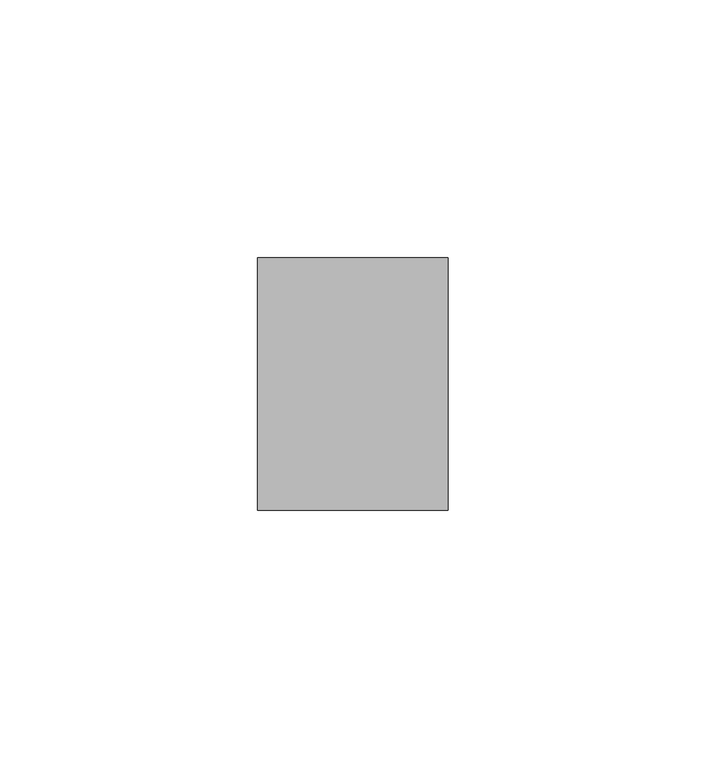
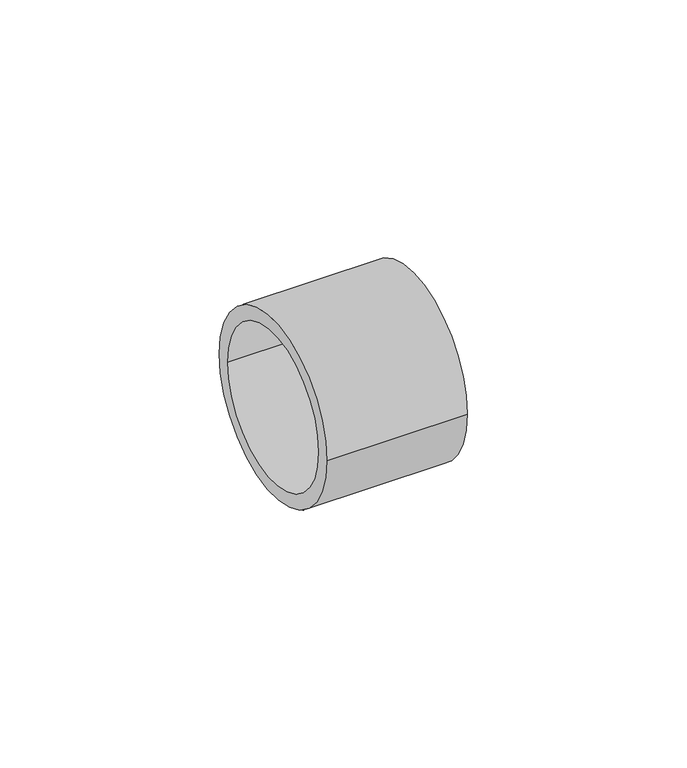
"""IFC4 building model written with IfcOpenShell, lengths in millimetres: pipe fitting geometry, RAUTITAN_Sleeve SDR 7,4 : RTI S SDR 7,4."""

import ifcopenshell
import ifcopenshell.guid

model = None  # the IFC model being written
_history = None  # IfcOwnerHistory: only IFC2X3 demands one
_inside = {}  # id of a spatial element -> (the spatial element, [elements in it])
_under = {}  # id of a project, library or spatial element -> (it, [spatial elements below it])
_declared = {}  # id of a project -> (the project, [libraries it declares])
_typed = {}  # id of a type object -> (the type object, [elements of that type])
_made_of = {}  # id of a material, layer set ... -> (it, [elements and type objects made of it])


def new_model(schema):
    """Start an empty IFC model of exactly this schema.

    Asked for "IFC4X3", IfcOpenShell would pick the latest addendum, in which some entities
    have other attributes; the version numbers below select the first issue.
    IFC2X3 requires an IfcOwnerHistory on every rooted entity: one is made here for all.
    """
    global model, _history
    if schema == "IFC4X3":
        model = ifcopenshell.file(schema_version=(4, 3, 0, 0))
    else:
        model = ifcopenshell.file(schema=schema)
    _inside.clear()
    _under.clear()
    _declared.clear()
    _typed.clear()
    _made_of.clear()
    _history = None
    if model.schema == "IFC2X3":
        org = make("IfcOrganization", Name="unknown")
        user = make(
            "IfcPersonAndOrganization",
            ThePerson=make("IfcPerson", FamilyName="unknown"),
            TheOrganization=org,
        )
        app = make(
            "IfcApplication",
            ApplicationDeveloper=org,
            Version="unknown",
            ApplicationFullName="unknown",
            ApplicationIdentifier="unknown",
        )
        _history = make(
            "IfcOwnerHistory",
            OwningUser=user,
            OwningApplication=app,
            ChangeAction="ADDED",
            CreationDate=0,
        )
    return model


def make(cls, **values):
    """One entity of the class cls with the attributes given. An attribute that is None is left unset."""
    return model.create_entity(
        cls, **{name: value for name, value in values.items() if value is not None}
    )


def rooted(cls, **values):
    """An entity with a GlobalId (a new one), such as an element, a storey or a relation."""
    return make(cls, GlobalId=ifcopenshell.guid.new(), OwnerHistory=_history, **values)


def si_unit(unit_type, name, prefix=None):
    """IfcSIUnit, for example si_unit("LENGTHUNIT", "METRE", prefix="MILLI")."""
    return make("IfcSIUnit", UnitType=unit_type, Prefix=prefix, Name=name)


def assignment(units):
    """IfcUnitAssignment: the units of a project."""
    return None if units is None else make("IfcUnitAssignment", Units=units)


def point(xyz):
    """IfcCartesianPoint."""
    return None if xyz is None else make("IfcCartesianPoint", Coordinates=xyz)


def direction(xyz):
    """IfcDirection."""
    return None if xyz is None else make("IfcDirection", DirectionRatios=xyz)


def frame(location, z_axis=None, x_axis=None):
    """IfcAxis2Placement3D, a coordinate frame: its origin and axes. An axis left out is left unset."""
    return make(
        "IfcAxis2Placement3D",
        Location=point(location),
        Axis=direction(z_axis),
        RefDirection=direction(x_axis),
    )


def frame_2d(location, x_axis=None):
    """IfcAxis2Placement2D, a coordinate frame in the plane: its origin and x axis."""
    return make(
        "IfcAxis2Placement2D", Location=point(location), RefDirection=direction(x_axis)
    )


def origin():
    """The frame at (0, 0, 0) with its axes left unset."""
    return frame((0.0, 0.0, 0.0))


def origin_2d():
    """The frame at (0, 0) in the plane with its x axis left unset."""
    return frame_2d((0.0, 0.0))


def place(relative_to, where):
    """IfcLocalPlacement: puts the frame where relative to a parent placement (None: the world)."""
    return make(
        "IfcLocalPlacement", PlacementRelTo=relative_to, RelativePlacement=where
    )


def context(
    kind, dimensions, precision=None, world=None, true_north=None, identifier=None
):
    """IfcGeometricRepresentationContext, for example the 3D "Model" context."""
    return make(
        "IfcGeometricRepresentationContext",
        ContextIdentifier=identifier,
        ContextType=kind,
        CoordinateSpaceDimension=dimensions,
        Precision=precision,
        WorldCoordinateSystem=world,
        TrueNorth=true_north,
    )


def project(units=None, contexts=None):
    """IfcProject with its units and contexts."""
    return rooted(
        "IfcProject",
        Name="project",
        RepresentationContexts=contexts,
        UnitsInContext=assignment(units),
    )


def spatial(cls, under=None, at=None, **own):
    """A site, building, storey or space (cls), placed at a placement, below another one or the project."""
    s = rooted(cls, ObjectPlacement=at, **own)
    if under is not None:
        _under.setdefault(under.id(), (under, []))[1].append(s)
    return s


def circle_curve(where, radius):
    """IfcCircle in the frame where."""
    return make("IfcCircle", Position=where, Radius=radius)


def trimmed(basis, trim1, trim2, sense, master):
    """IfcTrimmedCurve: the piece of a basis curve between two trims."""
    return make(
        "IfcTrimmedCurve",
        BasisCurve=basis,
        Trim1=trim1,
        Trim2=trim2,
        SenseAgreement=sense,
        MasterRepresentation=master,
    )


def segment(curve, same_sense, transition):
    """IfcCompositeCurveSegment."""
    return make(
        "IfcCompositeCurveSegment",
        Transition=transition,
        SameSense=same_sense,
        ParentCurve=curve,
    )


def composite_curve(segments, self_intersect=None):
    """IfcCompositeCurve: segments joined end to end."""
    return make("IfcCompositeCurve", Segments=segments, SelfIntersect=self_intersect)


def outline(outer, holes=None, kind="AREA"):
    """IfcArbitraryClosedProfileDef: a profile drawn as a closed curve; with holes, ...WithVoids."""
    if holes is None:
        return make("IfcArbitraryClosedProfileDef", ProfileType=kind, OuterCurve=outer)
    return make(
        "IfcArbitraryProfileDefWithVoids",
        ProfileType=kind,
        OuterCurve=outer,
        InnerCurves=holes,
    )


def extrude(swept, where, along, depth):
    """IfcExtrudedAreaSolid: the profile swept, set in the frame where, extruded along a direction by depth."""
    return make(
        "IfcExtrudedAreaSolid",
        SweptArea=swept,
        Position=where,
        ExtrudedDirection=direction(along),
        Depth=depth,
    )


def shape(context_of_items, identifier, shape_type, items):
    """IfcShapeRepresentation: the items that make up one representation, for example the "Body"."""
    return make(
        "IfcShapeRepresentation",
        ContextOfItems=context_of_items,
        RepresentationIdentifier=identifier,
        RepresentationType=shape_type,
        Items=items,
    )


def source(mapping_origin, context_of_items, identifier, shape_type, items):
    """IfcRepresentationMap: a shape defined once, which mapped items show again and again."""
    return make(
        "IfcRepresentationMap",
        MappingOrigin=mapping_origin,
        MappedRepresentation=shape(context_of_items, identifier, shape_type, items),
    )


def transform(
    local_origin,
    x_axis=None,
    y_axis=None,
    z_axis=None,
    scale=None,
    scale2=None,
    scale3=None,
    uniform=True,
):
    """IfcCartesianTransformationOperator3D, or its non-uniform kind. x_axis, y_axis, z_axis: its Axis1, 2, 3."""
    if uniform:
        return make(
            "IfcCartesianTransformationOperator3D",
            Axis1=direction(x_axis),
            Axis2=direction(y_axis),
            LocalOrigin=point(local_origin),
            Scale=scale,
            Axis3=direction(z_axis),
        )
    return make(
        "IfcCartesianTransformationOperator3DnonUniform",
        Axis1=direction(x_axis),
        Axis2=direction(y_axis),
        LocalOrigin=point(local_origin),
        Scale=scale,
        Axis3=direction(z_axis),
        Scale2=scale2,
        Scale3=scale3,
    )


def mapped(mapping_source, mapping_target):
    """IfcMappedItem: shows the shape of a source again, moved by a transform."""
    return make(
        "IfcMappedItem", MappingSource=mapping_source, MappingTarget=mapping_target
    )


def made_of(thing, what):
    """Note that an element or type object is made of a material, layer set ...; save() writes the relation."""
    if what is not None:
        _made_of.setdefault(what.id(), (what, []))[1].append(thing)
    return thing


def element(
    cls,
    number,
    at=None,
    inside=None,
    cuts=None,
    type_object=None,
    material=None,
    context=None,
    identifier="Body",
    shape_type=None,
    held_by="IfcProductDefinitionShape",
    body=None,
    shapes=None,
    **own,
):
    """One element of the class cls, such as IfcWall. Its Tag is "e" and its number.

    at: its placement. inside: the storey or other place that contains it. cuts: it is an
    opening in that element (IfcRelVoidsElement). A single representation is given by context,
    identifier, shape_type and body (its items); several are given by shapes. held_by: the class
    of the entity that holds the representations. save() writes the other relations.
    """
    e = rooted(cls, Tag="e%d" % number, ObjectPlacement=at, **own)
    if body is not None:
        shapes = [shape(context, identifier, shape_type, body)]
    if shapes is not None:
        e.Representation = make(held_by, Representations=shapes)
    if inside is not None:
        _inside.setdefault(inside.id(), (inside, []))[1].append(e)
    if cuts is not None:
        rooted(
            "IfcRelVoidsElement", RelatingBuildingElement=cuts, RelatedOpeningElement=e
        )
    if type_object is not None:
        _typed.setdefault(type_object.id(), (type_object, []))[1].append(e)
    return made_of(e, material)


def aggregate(whole, parts):
    """IfcRelAggregates: a whole, such as a stair, and the parts it consists of."""
    return rooted("IfcRelAggregates", RelatingObject=whole, RelatedObjects=parts)


def save(model, path):
    """Write the relations noted so far, then the file.

    IfcRelAggregates (storeys below a building ...), IfcRelContainedInSpatialStructure (elements
    in a storey), IfcRelDefinesByType, IfcRelAssociatesMaterial and IfcRelDeclares: one each for
    every whole, place, type object, material and project.
    """
    for whole, parts in _under.values():
        aggregate(whole, parts)
    for where, things in _inside.values():
        rooted(
            "IfcRelContainedInSpatialStructure",
            RelatedElements=things,
            RelatingStructure=where,
        )
    for kind, things in _typed.values():
        rooted("IfcRelDefinesByType", RelatedObjects=things, RelatingType=kind)
    for what, things in _made_of.values():
        rooted("IfcRelAssociatesMaterial", RelatedObjects=things, RelatingMaterial=what)
    for by, libraries in _declared.values():
        rooted("IfcRelDeclares", RelatingContext=by, RelatedDefinitions=libraries)
    model.write(path)


def pipe_fitting_37e15ff8(model_context):
    return source(origin(), model_context, "Body", "SweptSolid", [
        extrude(outline(composite_curve([segment(trimmed(circle_curve(origin_2d(), 24.5), [point((-24.5, 0.0))], [point((24.5, 0.0))], False, "CARTESIAN"), True, "CONTINUOUS"), segment(trimmed(circle_curve(origin_2d(), 24.5), [point((24.5, 0.0))], [point((-24.5, 0.0))], False, "CARTESIAN"), True, "CONTINUOUS")], self_intersect=False), holes=[composite_curve([segment(trimmed(circle_curve(origin_2d(), 20.7), [point((-20.7, 0.0))], [point((20.7, 0.0))], True, "CARTESIAN"), True, "CONTINUOUS"), segment(trimmed(circle_curve(origin_2d(), 20.7), [point((20.7, 0.0))], [point((-20.7, 0.0))], True, "CARTESIAN"), True, "CONTINUOUS")], self_intersect=False)]), frame((0.0, 0.0, 0.0), z_axis=(1.0, 0.0, 0.0), x_axis=(0.0, 1.0, 0.0)), (0.0, 0.0, 1.0), 37.0),
    ])


if __name__ == "__main__":
    model = new_model("IFC4")
    model_context = context("Model", 3, world=origin())
    ifc_project = project(units=[si_unit("LENGTHUNIT", "METRE", prefix="MILLI")], contexts=[model_context])
    site = spatial("IfcSite", under=ifc_project)
    building = spatial("IfcBuilding", under=site)
    placement = place(None, origin())
    pipe_fitting_shape = pipe_fitting_37e15ff8(model_context)
    element("IfcPipeFitting", 1, ObjectType="RAUTITAN_Sleeve SDR 7,4 : RTI S SDR 7,4", at=placement, inside=building, context=model_context, shape_type="MappedRepresentation", body=[
        mapped(pipe_fitting_shape, transform((0.0, 0.0, 0.0), x_axis=(1.0, 0.0, 0.0), y_axis=(0.0, 1.0, 0.0), z_axis=(0.0, 0.0, 1.0))),
    ])
    save(model, "model.ifc")
